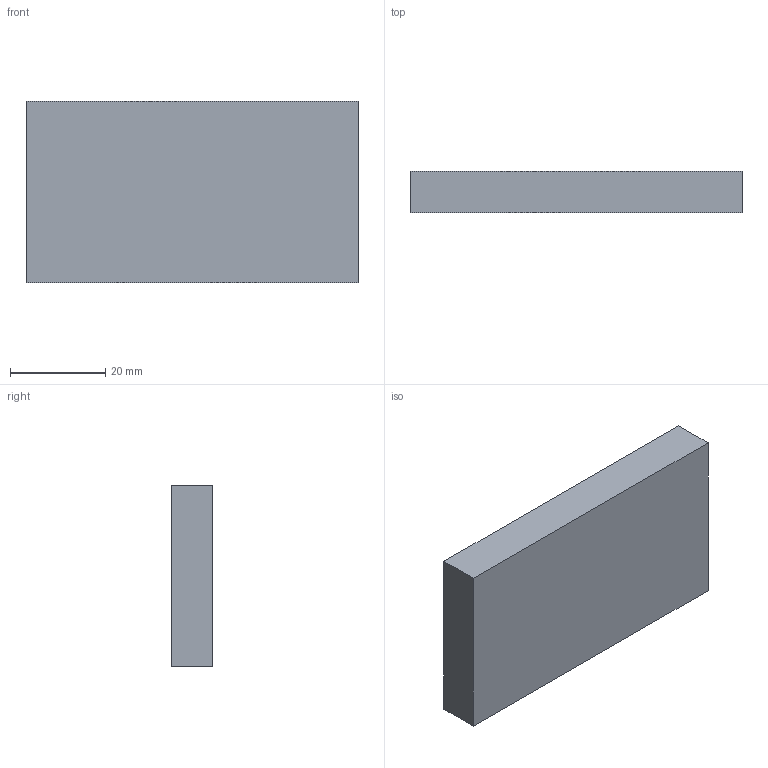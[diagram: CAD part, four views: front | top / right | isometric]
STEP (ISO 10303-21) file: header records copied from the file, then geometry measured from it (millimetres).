
FILE_DESCRIPTION (( 'STEP AP214' ), '1' );
FILE_NAME ('1500x2750x345.STEP', '2015-04-17T00:00:58', ( '' ), ( '' ), 'SwSTEP 2.0', 'SolidWorks 2012', '' );
FILE_SCHEMA (( 'AUTOMOTIVE_DESIGN' ));
Length unit declared in the file: inch
Products named in the file (1): 1500x2750x345
Bounding box: 69.85 x 8.76 x 38.1 mm (x, y, z)
Volume: 23320.8 mm3; surface area: 7214.5 mm2
Topology: 1 solids, 1 shells, 6 faces, 12 edges, 8 vertices
Faces by surface type: plane 6
Entity records: 196 total; most frequent: CARTESIAN_POINT 27, DIRECTION 26, ORIENTED_EDGE 24, VECTOR 12, LINE 12, EDGE_CURVE 12, VERTEX_POINT 8, AXIS2_PLACEMENT_3D 7
